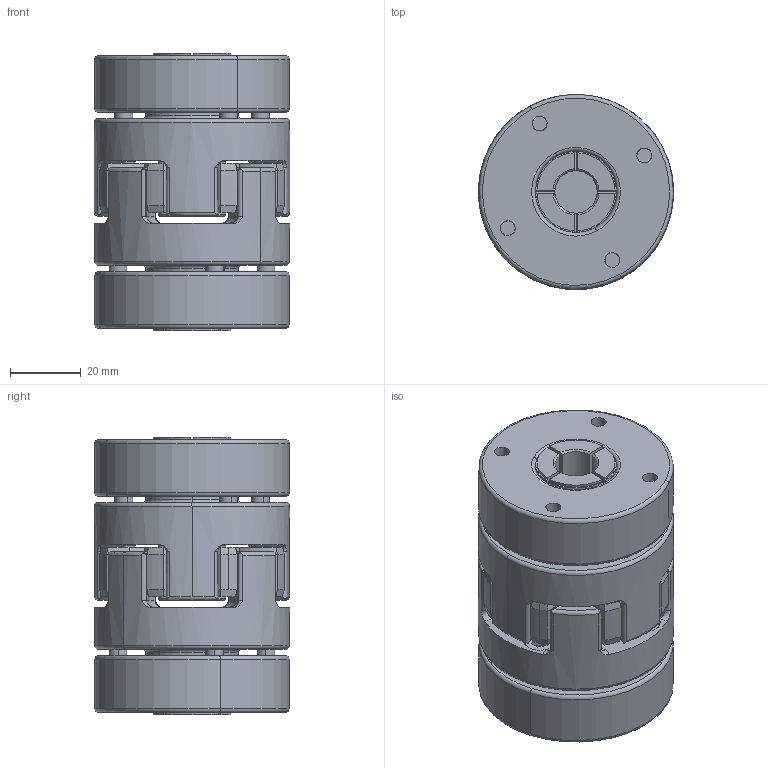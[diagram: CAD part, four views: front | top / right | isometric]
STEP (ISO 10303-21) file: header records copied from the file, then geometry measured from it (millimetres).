
FILE_DESCRIPTION (( 'STEP AP203' ), '1' );
FILE_NAME ('SJC-55T-12X12.STEP', '2014-08-16T02:44:59', ( 'Z77' ), ( '' ), 'SwSTEP 2.0', 'SolidWorks 2013', '' );
FILE_SCHEMA (( 'CONFIG_CONTROL_DESIGN' ));
Length unit declared in the file: millimetre
Products named in the file (1): SJC-55T-12X12
Bounding box: 55 x 55 x 78.3 mm (x, y, z)
Volume: 149039 mm3; surface area: 45180.7 mm2
Topology: 1 solids, 1 shells, 776 faces, 2003 edges, 1223 vertices
Faces by surface type: cylinder 266, plane 196, torus 176, cone 138
Entity records: 24999 total; most frequent: CARTESIAN_POINT 5735, DIRECTION 4300, ORIENTED_EDGE 3974, EDGE_CURVE 1987, AXIS2_PLACEMENT_3D 1840, VERTEX_POINT 1223, CIRCLE 1063, EDGE_LOOP 850
